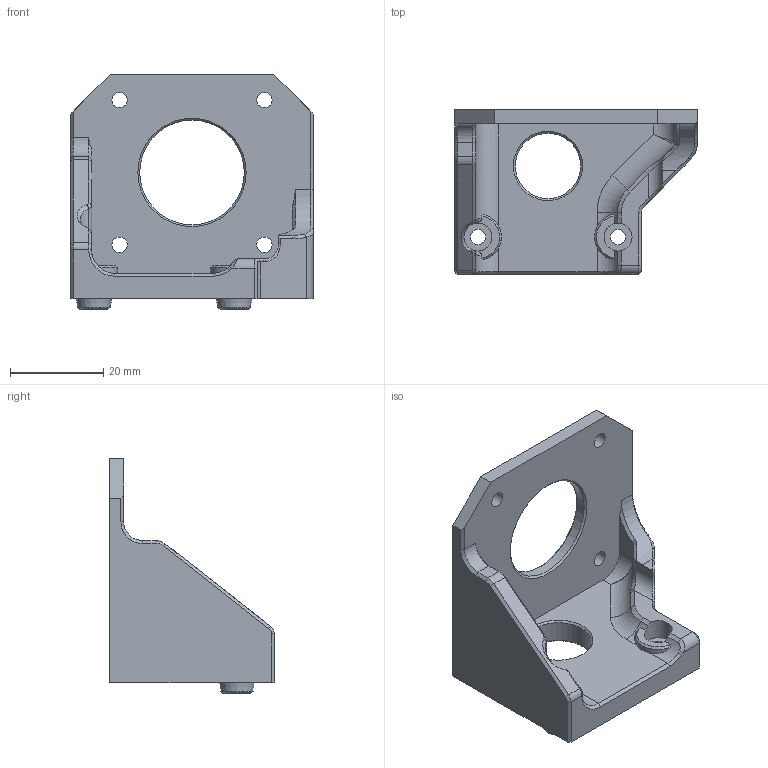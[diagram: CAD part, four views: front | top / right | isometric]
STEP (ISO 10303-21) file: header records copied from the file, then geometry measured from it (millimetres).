
FILE_DESCRIPTION(/* description */ (''),/* implementation_level */ '2;1');
FILE_NAME(/* name */ 'HMG7-Creality-Single-Gear-Rear-Mount.step',/* time_stamp */ '2022-11-01T22:08:31-07:00',/* author */ (''),/* organization */ (''),/* preprocessor_version */ 'ST-DEVELOPER v19.2',/* originating_system */ 'Autodesk Translation Framework v11.17.0.187',/* authorisation */ '');
FILE_SCHEMA (('AUTOMOTIVE_DESIGN { 1 0 10303 214 3 1 1 }'));
Length unit declared in the file: millimetre
Products named in the file (3): GEN_7_1.5; Creality_Mk10_Extruder_Rear; Creality_Mk10_Rear_Bracket
Assembly tree (2 placements, depth 3):
  GEN_7_1.5
    Creality_Mk10_Extruder_Rear
      Creality_Mk10_Rear_Bracket
Bounding box: 52 x 35.23 x 50.38 mm (x, y, z)
Volume: 16533.8 mm3; surface area: 9552.5 mm2
Topology: 1 solids, 1 shells, 126 faces, 319 edges, 196 vertices
Faces by surface type: plane 46, cylinder 29, bspline 27, cone 23, torus 1
Full cylindrical faces by diameter (mm): 3.3 x6, 6 x2, 14 x1, 22.4 x1
Entity records: 4424 total; most frequent: CARTESIAN_POINT 1454, ORIENTED_EDGE 636, DIRECTION 536, EDGE_CURVE 318, VERTEX_POINT 196, AXIS2_PLACEMENT_3D 183, LINE 170, VECTOR 170
